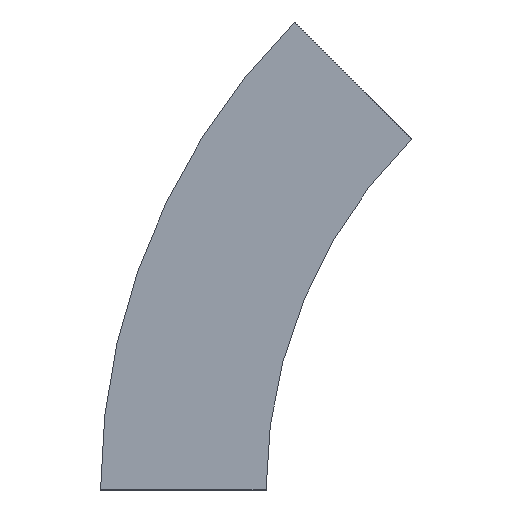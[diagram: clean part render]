
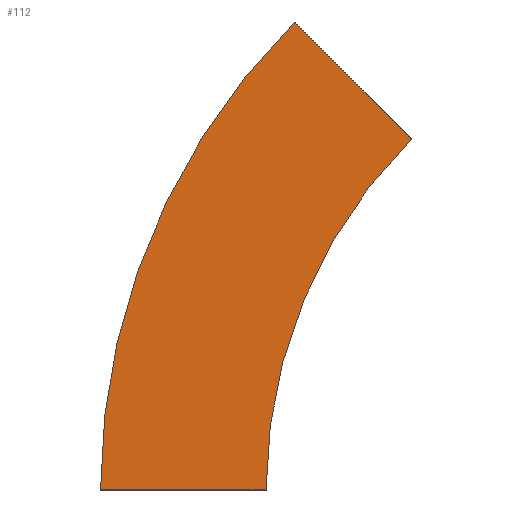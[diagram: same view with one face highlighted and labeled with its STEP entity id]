
A CAD part, left-side view. The second image highlights one B-rep face of the part: STEP entity #112.
In plain terms, the highlighted planar face has unit normal (-1, 0, 0) as drawn and (1, 0, 0) by its records, which use the part's own axes.
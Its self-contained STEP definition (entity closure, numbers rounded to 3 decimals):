
#3 = CARTESIAN_POINT ( 'NONE',  ( 0., -17.157, 282.843 ) ) ;
#7 = AXIS2_PLACEMENT_3D ( 'NONE', #169, #32, #134 ) ;
#20 = CIRCLE ( 'NONE', #229, 400. ) ;
#32 = DIRECTION ( 'NONE',  ( 1., 0., 0. ) ) ;
#37 = VECTOR ( 'NONE', #190, 1000. ) ;
#41 = CIRCLE ( 'NONE', #7, 300. ) ;
#77 = CARTESIAN_POINT ( 'NONE',  ( 0., -87.868, 212.132 ) ) ;
#88 = ORIENTED_EDGE ( 'NONE', *, *, #534, .F. ) ;
#104 = EDGE_CURVE ( 'NONE', #469, #184, #41, .T. ) ;
#112 = ADVANCED_FACE ( 'NONE', ( #298 ), #158, .T. ) ;
#130 = CARTESIAN_POINT ( 'NONE',  ( 0., 0., 0. ) ) ;
#134 = DIRECTION ( 'NONE',  ( 0., 1., 0. ) ) ;
#135 = LINE ( 'NONE', #310, #37 ) ;
#158 = PLANE ( 'NONE',  #332 ) ;
#169 = CARTESIAN_POINT ( 'NONE',  ( 0., -300., 0. ) ) ;
#184 = VERTEX_POINT ( 'NONE', #511 ) ;
#190 = DIRECTION ( 'NONE',  ( 0., 1., 0. ) ) ;
#193 = ORIENTED_EDGE ( 'NONE', *, *, #252, .T. ) ;
#216 = DIRECTION ( 'NONE',  ( 0., 0.707, 0.707 ) ) ;
#229 = AXIS2_PLACEMENT_3D ( 'NONE', #499, #387, #553 ) ;
#231 = CARTESIAN_POINT ( 'NONE',  ( 0., 100., 0. ) ) ;
#252 = EDGE_CURVE ( 'NONE', #279, #291, #20, .T. ) ;
#279 = VERTEX_POINT ( 'NONE', #231 ) ;
#288 = DIRECTION ( 'NONE',  ( 1., 0., 0. ) ) ;
#291 = VERTEX_POINT ( 'NONE', #3 ) ;
#298 = FACE_OUTER_BOUND ( 'NONE', #404, .T. ) ;
#310 = CARTESIAN_POINT ( 'NONE',  ( 0., 0., 0. ) ) ;
#332 = AXIS2_PLACEMENT_3D ( 'NONE', #549, #288, #542 ) ;
#346 = EDGE_CURVE ( 'NONE', #469, #279, #135, .T. ) ;
#387 = DIRECTION ( 'NONE',  ( 1., 0., 0. ) ) ;
#404 = EDGE_LOOP ( 'NONE', ( #193, #88, #472, #541 ) ) ;
#419 = LINE ( 'NONE', #77, #474 ) ;
#469 = VERTEX_POINT ( 'NONE', #130 ) ;
#472 = ORIENTED_EDGE ( 'NONE', *, *, #104, .F. ) ;
#474 = VECTOR ( 'NONE', #216, 1000. ) ;
#499 = CARTESIAN_POINT ( 'NONE',  ( 0., -300., 0. ) ) ;
#511 = CARTESIAN_POINT ( 'NONE',  ( 0., -87.868, 212.132 ) ) ;
#534 = EDGE_CURVE ( 'NONE', #184, #291, #419, .T. ) ;
#541 = ORIENTED_EDGE ( 'NONE', *, *, #346, .T. ) ;
#542 = DIRECTION ( 'NONE',  ( 0., 0., -1. ) ) ;
#549 = CARTESIAN_POINT ( 'NONE',  ( 0., 0., 0. ) ) ;
#553 = DIRECTION ( 'NONE',  ( 0., 1., 0. ) ) ;
